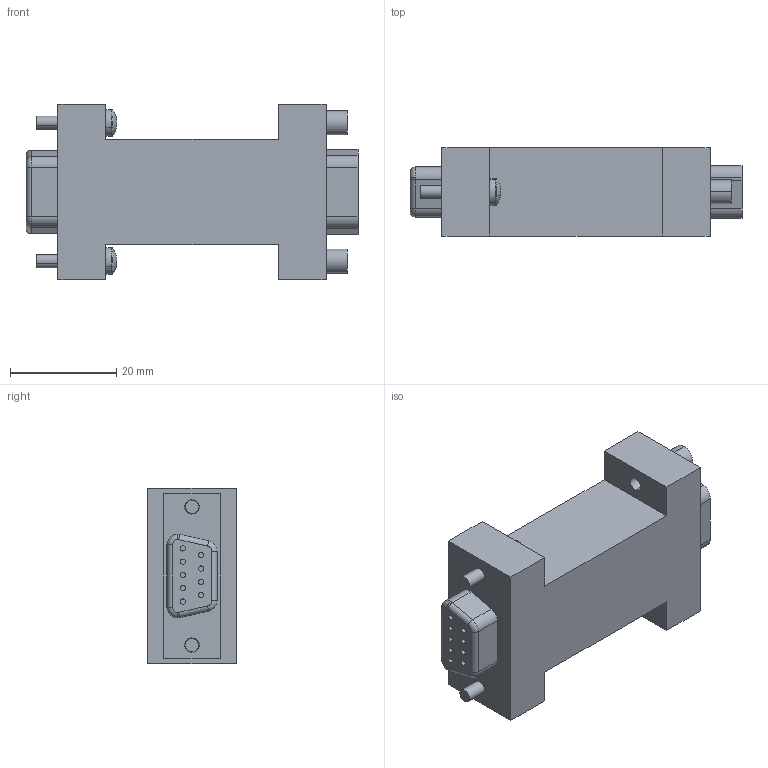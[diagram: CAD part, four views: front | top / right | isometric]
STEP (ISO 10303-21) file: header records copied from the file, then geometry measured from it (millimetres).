
FILE_DESCRIPTION (( 'STEP AP203' ), '1' );
FILE_NAME ('CVT-232A-3.STEP', '2017-11-23T04:28:09', ( '' ), ( '' ), 'SwSTEP 2.0', 'SolidWorks 2013', '' );
FILE_SCHEMA (( 'CONFIG_CONTROL_DESIGN' ));
Length unit declared in the file: millimetre
Products named in the file (6): Part10^CVT-232B-3; CVT-232A-3; 11; pan cross head_am_B18.6.7M - M2.5 x 0.45 x 13 Type I Cross Recessed PHMS --13C; 22; 33
Assembly tree (6 placements, depth 2):
  CVT-232A-3
    33
    11
    22
    pan cross head_am_B18.6.7M - M2.5 x 0.45 x 13 Type I Cross Recessed PHMS --13C  x2
    Part10^CVT-232B-3
Bounding box: 62.4 x 16.6 x 33 mm (x, y, z)
Volume: 21421.2 mm3; surface area: 8910.9 mm2
Topology: 7 solids, 7 shells, 236 faces, 624 edges, 443 vertices
Faces by surface type: plane 135, cylinder 87, torus 10, sphere 4
Entity records: 8307 total; most frequent: CARTESIAN_POINT 2080, DIRECTION 1155, ORIENTED_EDGE 1148, EDGE_CURVE 574, AXIS2_PLACEMENT_3D 418, VERTEX_POINT 413, VECTOR 319, LINE 319
